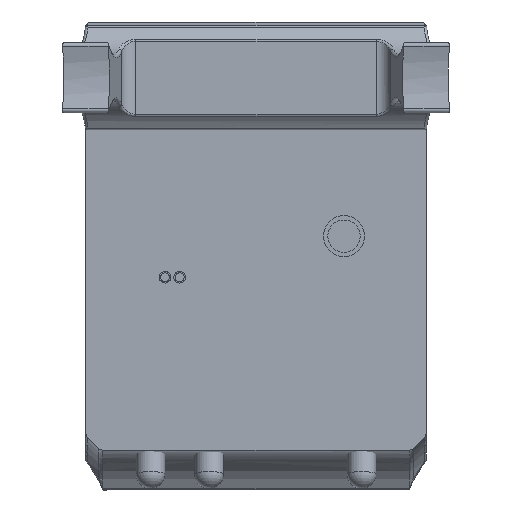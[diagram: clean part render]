
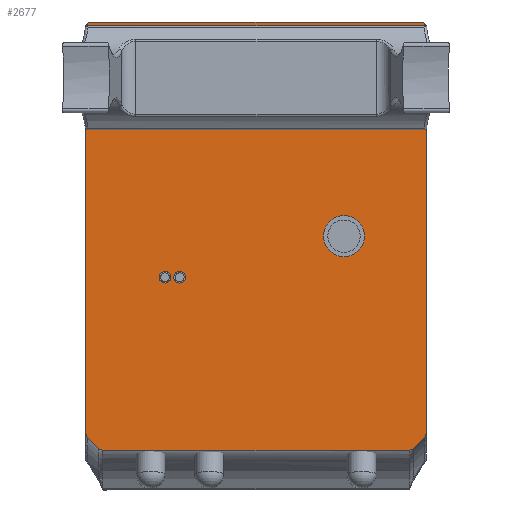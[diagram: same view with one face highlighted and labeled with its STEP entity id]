
A CAD part, front view. The second image highlights one B-rep face of the part: STEP entity #2677.
In plain terms, the highlighted planar face has unit normal (0, -1, 0).
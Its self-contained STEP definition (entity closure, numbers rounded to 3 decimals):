
#174=CIRCLE('',#2975,3.5);
#175=CIRCLE('',#2976,0.9);
#176=CIRCLE('',#2977,0.9);
#177=CIRCLE('',#2978,1.);
#178=CIRCLE('',#2979,1.);
#179=CIRCLE('',#2980,1.);
#180=CIRCLE('',#2981,1.);
#181=CIRCLE('',#2982,1.);
#182=CIRCLE('',#2983,1.);
#183=CIRCLE('',#2984,1.);
#184=CIRCLE('',#2985,1.);
#530=ORIENTED_EDGE('',*,*,#1176,.F.);
#531=ORIENTED_EDGE('',*,*,#1177,.T.);
#532=ORIENTED_EDGE('',*,*,#1178,.T.);
#533=ORIENTED_EDGE('',*,*,#1179,.F.);
#534=ORIENTED_EDGE('',*,*,#1180,.F.);
#535=ORIENTED_EDGE('',*,*,#1181,.F.);
#536=ORIENTED_EDGE('',*,*,#1182,.T.);
#537=ORIENTED_EDGE('',*,*,#1183,.F.);
#538=ORIENTED_EDGE('',*,*,#1184,.T.);
#539=ORIENTED_EDGE('',*,*,#1185,.T.);
#540=ORIENTED_EDGE('',*,*,#1186,.T.);
#541=ORIENTED_EDGE('',*,*,#1187,.T.);
#542=ORIENTED_EDGE('',*,*,#1188,.T.);
#543=ORIENTED_EDGE('',*,*,#1189,.T.);
#544=ORIENTED_EDGE('',*,*,#1190,.T.);
#545=ORIENTED_EDGE('',*,*,#1191,.T.);
#546=ORIENTED_EDGE('',*,*,#1192,.T.);
#1176=EDGE_CURVE('',#1511,#1511,#174,.T.);
#1177=EDGE_CURVE('',#1512,#1512,#175,.T.);
#1178=EDGE_CURVE('',#1513,#1513,#176,.T.);
#1179=EDGE_CURVE('',#1514,#1514,#177,.T.);
#1180=EDGE_CURVE('',#1515,#1515,#178,.T.);
#1181=EDGE_CURVE('',#1516,#1517,#1789,.T.);
#1182=EDGE_CURVE('',#1516,#1518,#179,.F.);
#1183=EDGE_CURVE('',#1519,#1518,#1790,.T.);
#1184=EDGE_CURVE('',#1519,#1520,#180,.F.);
#1185=EDGE_CURVE('',#1520,#1521,#1791,.T.);
#1186=EDGE_CURVE('',#1521,#1522,#181,.F.);
#1187=EDGE_CURVE('',#1522,#1523,#1792,.T.);
#1188=EDGE_CURVE('',#1523,#1524,#182,.F.);
#1189=EDGE_CURVE('',#1524,#1525,#1793,.T.);
#1190=EDGE_CURVE('',#1525,#1526,#183,.F.);
#1191=EDGE_CURVE('',#1526,#1527,#1794,.T.);
#1192=EDGE_CURVE('',#1527,#1517,#184,.F.);
#1511=VERTEX_POINT('',#4273);
#1512=VERTEX_POINT('',#4275);
#1513=VERTEX_POINT('',#4277);
#1514=VERTEX_POINT('',#4279);
#1515=VERTEX_POINT('',#4281);
#1516=VERTEX_POINT('',#4283);
#1517=VERTEX_POINT('',#4284);
#1518=VERTEX_POINT('',#4286);
#1519=VERTEX_POINT('',#4288);
#1520=VERTEX_POINT('',#4290);
#1521=VERTEX_POINT('',#4292);
#1522=VERTEX_POINT('',#4294);
#1523=VERTEX_POINT('',#4296);
#1524=VERTEX_POINT('',#4298);
#1525=VERTEX_POINT('',#4300);
#1526=VERTEX_POINT('',#4302);
#1527=VERTEX_POINT('',#4304);
#1789=LINE('',#4282,#1999);
#1790=LINE('',#4287,#2000);
#1791=LINE('',#4291,#2001);
#1792=LINE('',#4295,#2002);
#1793=LINE('',#4299,#2003);
#1794=LINE('',#4303,#2004);
#1999=VECTOR('',#3460,1000.);
#2000=VECTOR('',#3463,1000.);
#2001=VECTOR('',#3466,1000.);
#2002=VECTOR('',#3469,1000.);
#2003=VECTOR('',#3472,1000.);
#2004=VECTOR('',#3475,1000.);
#2144=EDGE_LOOP('',(#530));
#2145=EDGE_LOOP('',(#531));
#2146=EDGE_LOOP('',(#532));
#2147=EDGE_LOOP('',(#533));
#2148=EDGE_LOOP('',(#534));
#2149=EDGE_LOOP('',(#535,#536,#537,#538,#539,#540,#541,#542,#543,#544,#545,
#546));
#2364=FACE_BOUND('',#2144,.T.);
#2365=FACE_BOUND('',#2145,.T.);
#2366=FACE_BOUND('',#2146,.T.);
#2367=FACE_BOUND('',#2147,.T.);
#2368=FACE_BOUND('',#2148,.T.);
#2369=FACE_BOUND('',#2149,.T.);
#2577=PLANE('',#2974);
#2677=ADVANCED_FACE('',(#2364,#2365,#2366,#2367,#2368,#2369),#2577,.F.);
#2974=AXIS2_PLACEMENT_3D('',#4271,#3448,#3449);
#2975=AXIS2_PLACEMENT_3D('',#4272,#3450,#3451);
#2976=AXIS2_PLACEMENT_3D('',#4274,#3452,#3453);
#2977=AXIS2_PLACEMENT_3D('',#4276,#3454,#3455);
#2978=AXIS2_PLACEMENT_3D('',#4278,#3456,#3457);
#2979=AXIS2_PLACEMENT_3D('',#4280,#3458,#3459);
#2980=AXIS2_PLACEMENT_3D('',#4285,#3461,#3462);
#2981=AXIS2_PLACEMENT_3D('',#4289,#3464,#3465);
#2982=AXIS2_PLACEMENT_3D('',#4293,#3467,#3468);
#2983=AXIS2_PLACEMENT_3D('',#4297,#3470,#3471);
#2984=AXIS2_PLACEMENT_3D('',#4301,#3473,#3474);
#2985=AXIS2_PLACEMENT_3D('',#4305,#3476,#3477);
#3448=DIRECTION('',(0.,1.,0.));
#3449=DIRECTION('',(0.,0.,1.));
#3450=DIRECTION('',(0.,-1.,0.));
#3451=DIRECTION('',(-1.,0.,0.));
#3452=DIRECTION('',(0.,1.,0.));
#3453=DIRECTION('',(0.,0.,-1.));
#3454=DIRECTION('',(0.,1.,0.));
#3455=DIRECTION('',(0.,0.,-1.));
#3456=DIRECTION('',(0.,-1.,0.));
#3457=DIRECTION('',(1.,0.,0.));
#3458=DIRECTION('',(0.,-1.,0.));
#3459=DIRECTION('',(1.,0.,0.));
#3460=DIRECTION('',(0.,0.,-1.));
#3461=DIRECTION('',(0.,1.,0.));
#3462=DIRECTION('',(0.,0.,1.));
#3463=DIRECTION('',(1.,0.,0.));
#3464=DIRECTION('',(0.,1.,0.));
#3465=DIRECTION('',(0.,0.,1.));
#3466=DIRECTION('',(-0.707,0.,-0.707));
#3467=DIRECTION('',(0.,1.,0.));
#3468=DIRECTION('',(0.,0.,1.));
#3469=DIRECTION('',(0.,0.,-1.));
#3470=DIRECTION('',(0.,1.,0.));
#3471=DIRECTION('',(0.,0.,1.));
#3472=DIRECTION('',(0.707,0.,-0.707));
#3473=DIRECTION('',(0.,1.,0.));
#3474=DIRECTION('',(0.,0.,1.));
#3475=DIRECTION('',(1.,0.,0.));
#3476=DIRECTION('',(0.,1.,0.));
#3477=DIRECTION('',(0.,0.,1.));
#4271=CARTESIAN_POINT('',(35.1,-5.625,29.));
#4272=CARTESIAN_POINT('',(0.,-5.625,-15.));
#4273=CARTESIAN_POINT('',(-3.5,-5.625,-15.));
#4274=CARTESIAN_POINT('',(27.,-5.625,-26.));
#4275=CARTESIAN_POINT('',(27.,-5.625,-26.9));
#4276=CARTESIAN_POINT('',(27.,-5.625,26.));
#4277=CARTESIAN_POINT('',(27.,-5.625,25.1));
#4278=CARTESIAN_POINT('',(-7.,-5.625,15.5));
#4279=CARTESIAN_POINT('',(-6.,-5.625,15.5));
#4280=CARTESIAN_POINT('',(-7.,-5.625,13.));
#4281=CARTESIAN_POINT('',(-6.,-5.625,13.));
#4282=CARTESIAN_POINT('',(36.5,-5.625,29.));
#4283=CARTESIAN_POINT('',(36.5,-5.625,28.));
#4284=CARTESIAN_POINT('',(36.5,-5.625,-28.));
#4285=CARTESIAN_POINT('',(35.5,-5.625,28.));
#4286=CARTESIAN_POINT('',(35.5,-5.625,29.));
#4287=CARTESIAN_POINT('',(35.1,-5.625,29.));
#4288=CARTESIAN_POINT('',(-33.586,-5.625,29.));
#4289=CARTESIAN_POINT('',(-33.586,-5.625,28.));
#4290=CARTESIAN_POINT('',(-34.293,-5.625,28.707));
#4291=CARTESIAN_POINT('',(-47.828,-5.625,15.172));
#4292=CARTESIAN_POINT('',(-36.207,-5.625,26.793));
#4293=CARTESIAN_POINT('',(-35.5,-5.625,26.086));
#4294=CARTESIAN_POINT('',(-36.5,-5.625,26.086));
#4295=CARTESIAN_POINT('',(-36.5,-5.625,29.));
#4296=CARTESIAN_POINT('',(-36.5,-5.625,-26.086));
#4297=CARTESIAN_POINT('',(-35.5,-5.625,-26.086));
#4298=CARTESIAN_POINT('',(-36.207,-5.625,-26.793));
#4299=CARTESIAN_POINT('',(-47.828,-5.625,-15.172));
#4300=CARTESIAN_POINT('',(-34.293,-5.625,-28.707));
#4301=CARTESIAN_POINT('',(-33.586,-5.625,-28.));
#4302=CARTESIAN_POINT('',(-33.586,-5.625,-29.));
#4303=CARTESIAN_POINT('',(35.1,-5.625,-29.));
#4304=CARTESIAN_POINT('',(35.5,-5.625,-29.));
#4305=CARTESIAN_POINT('',(35.5,-5.625,-28.));
